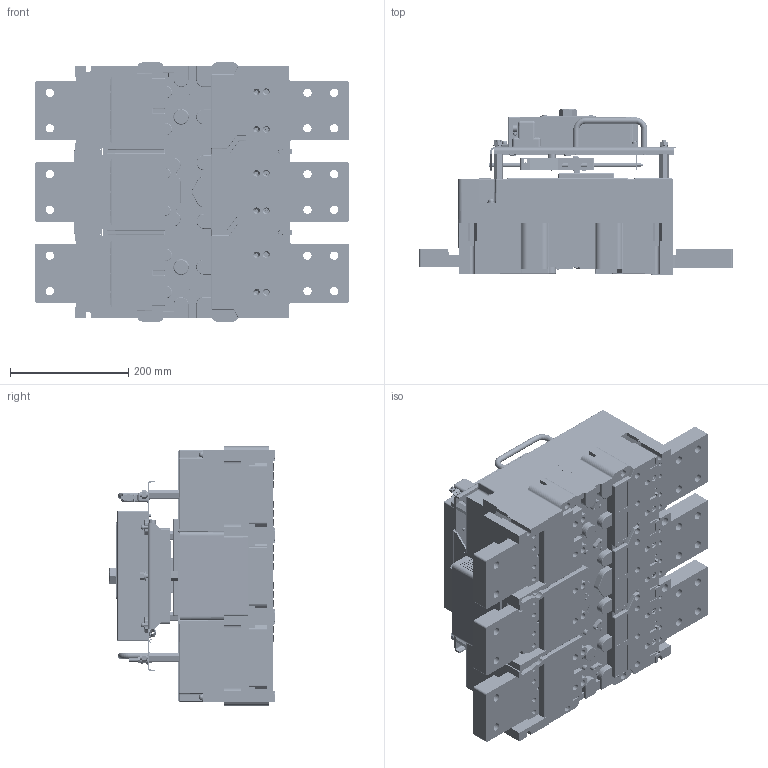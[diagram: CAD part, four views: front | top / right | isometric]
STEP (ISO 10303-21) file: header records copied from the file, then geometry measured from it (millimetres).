
FILE_DESCRIPTION (( 'STEP AP203' ), '1' );
FILE_NAME ('ÂÀ55-43 ñ ÝÌÏ 2000 À.STEP', '2016-09-29T10:15:36', ( 'admin' ), ( '' ), 'SwSTEP 2.0', 'SolidWorks 2012', '' );
FILE_SCHEMA (( 'CONFIG_CONTROL_DESIGN' ));
Products named in the file (1): ÂÀ55-43 ñ ÝÌÏ 2000 À
Bounding box: 530 x 279.15 x 438 mm (x, y, z)
Volume: 23234119.3 mm3; surface area: 2826671 mm2
Topology: 305 solids, 305 shells, 14986 faces, 38336 edges, 24375 vertices
Faces by surface type: plane 8033, cylinder 3919, bspline 1741, cone 910, torus 297, sphere 86
Entity records: 517851 total; most frequent: CARTESIAN_POINT 163426, ORIENTED_EDGE 76492, DIRECTION 68377, EDGE_CURVE 38246, VECTOR 24855, LINE 24855, VERTEX_POINT 24375, AXIS2_PLACEMENT_3D 21761
